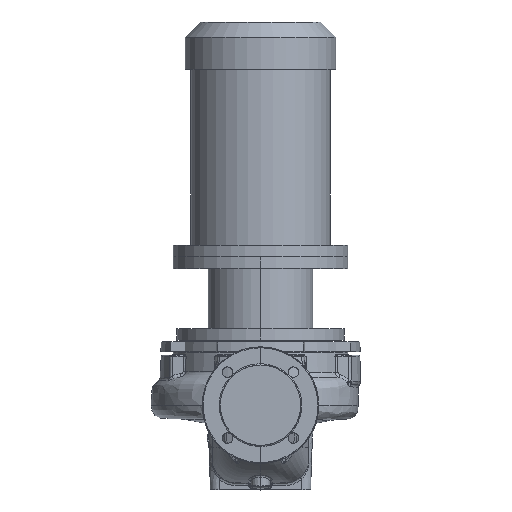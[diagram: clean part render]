
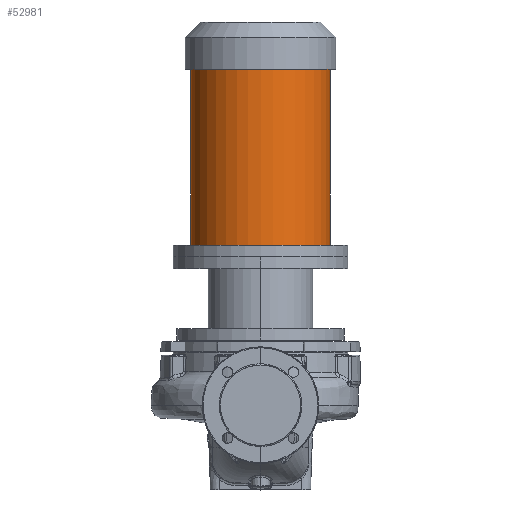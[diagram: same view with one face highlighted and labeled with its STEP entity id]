
A CAD part, top view. The second image highlights one B-rep face of the part: STEP entity #52981.
In plain terms, the highlighted cylindrical face has radius 119.5 mm (diameter 239 mm), a partial arc.
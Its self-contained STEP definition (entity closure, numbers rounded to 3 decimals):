
#457 = AXIS2_PLACEMENT_3D ( 'NONE', #38080, #28676, #42364 ) ;
#3942 = DIRECTION ( 'NONE',  ( 0., -1., 0. ) ) ;
#5288 = ORIENTED_EDGE ( 'NONE', *, *, #48547, .F. ) ;
#6274 = VECTOR ( 'NONE', #13720, 1000. ) ;
#6586 = DIRECTION ( 'NONE',  ( -1., 0., 0. ) ) ;
#7258 = AXIS2_PLACEMENT_3D ( 'NONE', #22639, #22429, #32409 ) ;
#8969 = VECTOR ( 'NONE', #3942, 1000. ) ;
#11751 = ORIENTED_EDGE ( 'NONE', *, *, #22573, .T. ) ;
#13517 = CARTESIAN_POINT ( 'NONE',  ( 119.5, 254.8, 0. ) ) ;
#13720 = DIRECTION ( 'NONE',  ( 0., -1., 0. ) ) ;
#15426 = LINE ( 'NONE', #13517, #6274 ) ;
#18476 = VERTEX_POINT ( 'NONE', #33821 ) ;
#21497 = DIRECTION ( 'NONE',  ( 0., -1., 0. ) ) ;
#21807 = ORIENTED_EDGE ( 'NONE', *, *, #56794, .T. ) ;
#22429 = DIRECTION ( 'NONE',  ( 0., -1., 0. ) ) ;
#22573 = EDGE_CURVE ( 'NONE', #52780, #52605, #37962, .T. ) ;
#22639 = CARTESIAN_POINT ( 'NONE',  ( 0., 254.8, 0. ) ) ;
#27671 = EDGE_CURVE ( 'NONE', #45618, #18476, #36530, .T. ) ;
#28676 = DIRECTION ( 'NONE',  ( 0., -1., 0. ) ) ;
#32409 = DIRECTION ( 'NONE',  ( -1., 0., 0. ) ) ;
#33821 = CARTESIAN_POINT ( 'NONE',  ( -119.5, 274.8, 0. ) ) ;
#35768 = CARTESIAN_POINT ( 'NONE',  ( 0., 576.8, 0. ) ) ;
#36530 = CIRCLE ( 'NONE', #457, 119.5 ) ;
#37528 = EDGE_LOOP ( 'NONE', ( #5288, #11751, #21807, #46173 ) ) ;
#37962 = CIRCLE ( 'NONE', #45455, 119.5 ) ;
#38080 = CARTESIAN_POINT ( 'NONE',  ( 0., 274.8, 0. ) ) ;
#41460 = CYLINDRICAL_SURFACE ( 'NONE', #7258, 119.5 ) ;
#42364 = DIRECTION ( 'NONE',  ( -1., 0., 0. ) ) ;
#43710 = FACE_OUTER_BOUND ( 'NONE', #37528, .T. ) ;
#45455 = AXIS2_PLACEMENT_3D ( 'NONE', #35768, #21497, #6586 ) ;
#45618 = VERTEX_POINT ( 'NONE', #51252 ) ;
#45650 = CARTESIAN_POINT ( 'NONE',  ( 119.5, 576.8, 0. ) ) ;
#46173 = ORIENTED_EDGE ( 'NONE', *, *, #27671, .F. ) ;
#46381 = CARTESIAN_POINT ( 'NONE',  ( -119.5, 576.8, 0. ) ) ;
#48547 = EDGE_CURVE ( 'NONE', #52780, #45618, #15426, .T. ) ;
#50866 = LINE ( 'NONE', #62053, #8969 ) ;
#51252 = CARTESIAN_POINT ( 'NONE',  ( 119.5, 274.8, 0. ) ) ;
#52605 = VERTEX_POINT ( 'NONE', #46381 ) ;
#52780 = VERTEX_POINT ( 'NONE', #45650 ) ;
#52981 = ADVANCED_FACE ( 'NONE', ( #43710 ), #41460, .T. ) ;
#56794 = EDGE_CURVE ( 'NONE', #52605, #18476, #50866, .T. ) ;
#62053 = CARTESIAN_POINT ( 'NONE',  ( -119.5, 254.8, 0. ) ) ;
